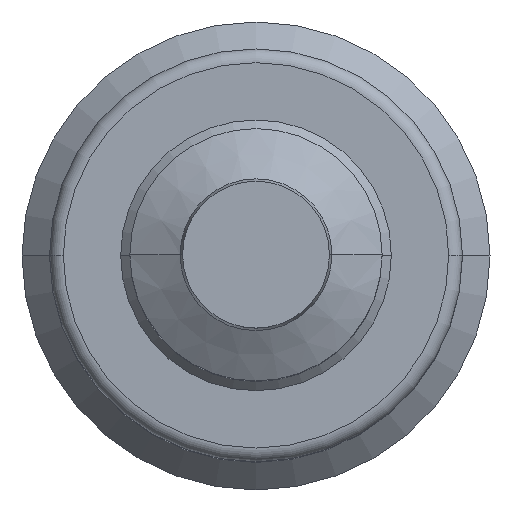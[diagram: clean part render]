
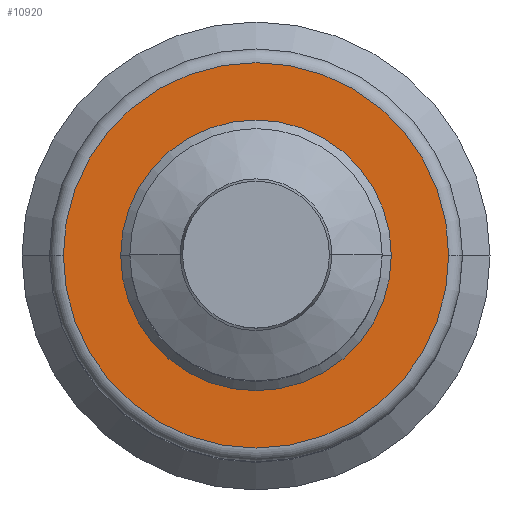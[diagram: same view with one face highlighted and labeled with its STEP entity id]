
A CAD part, top view. The second image highlights one B-rep face of the part: STEP entity #10920.
In plain terms, the highlighted planar face has unit normal (0, 0, 1).
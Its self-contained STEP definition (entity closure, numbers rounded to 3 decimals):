
#874 = ORIENTED_EDGE ( 'NONE', *, *, #10048, .T. ) ;
#1193 = PLANE ( 'NONE',  #11825 ) ;
#1430 = ORIENTED_EDGE ( 'NONE', *, *, #8653, .T. ) ;
#1608 = DIRECTION ( 'NONE',  ( 0., 0., -1. ) ) ;
#2434 = VERTEX_POINT ( 'NONE', #4252 ) ;
#2493 = FACE_BOUND ( 'NONE', #6636, .T. ) ;
#2597 = EDGE_CURVE ( 'NONE', #5908, #4857, #10205, .T. ) ;
#2848 = ORIENTED_EDGE ( 'NONE', *, *, #12290, .F. ) ;
#2950 = CARTESIAN_POINT ( 'NONE',  ( 0., 0., 130. ) ) ;
#3325 = AXIS2_PLACEMENT_3D ( 'NONE', #2950, #9602, #3915 ) ;
#3366 = CARTESIAN_POINT ( 'NONE',  ( 42., 0., 130. ) ) ;
#3587 = VERTEX_POINT ( 'NONE', #5035 ) ;
#3755 = CIRCLE ( 'NONE', #3961, 42. ) ;
#3915 = DIRECTION ( 'NONE',  ( -1., 0., 0. ) ) ;
#3961 = AXIS2_PLACEMENT_3D ( 'NONE', #7322, #1608, #8254 ) ;
#4252 = CARTESIAN_POINT ( 'NONE',  ( -29.5, 0., 130. ) ) ;
#4500 = CARTESIAN_POINT ( 'NONE',  ( 0., 0., 130. ) ) ;
#4690 = EDGE_LOOP ( 'NONE', ( #9661, #2848 ) ) ;
#4857 = VERTEX_POINT ( 'NONE', #3366 ) ;
#5018 = CARTESIAN_POINT ( 'NONE',  ( -29.5, 0., 130. ) ) ;
#5035 = CARTESIAN_POINT ( 'NONE',  ( 29.5, 0., 130. ) ) ;
#5099 = CARTESIAN_POINT ( 'NONE',  ( -42., 0., 130. ) ) ;
#5446 = DIRECTION ( 'NONE',  ( -1., 0., 0. ) ) ;
#5687 = AXIS2_PLACEMENT_3D ( 'NONE', #4500, #11142, #5446 ) ;
#5762 = CIRCLE ( 'NONE', #3325, 29.5 ) ;
#5908 = VERTEX_POINT ( 'NONE', #5099 ) ;
#6171 = DIRECTION ( 'NONE',  ( 1., 0., 0. ) ) ;
#6636 = EDGE_LOOP ( 'NONE', ( #1430, #874 ) ) ;
#7322 = CARTESIAN_POINT ( 'NONE',  ( 0., 0., 130. ) ) ;
#7738 = DIRECTION ( 'NONE',  ( -1., 0., 0. ) ) ;
#8254 = DIRECTION ( 'NONE',  ( -1., 0., 0. ) ) ;
#8653 = EDGE_CURVE ( 'NONE', #2434, #3587, #5762, .T. ) ;
#9602 = DIRECTION ( 'NONE',  ( 0., 0., -1. ) ) ;
#9620 = AXIS2_PLACEMENT_3D ( 'NONE', #10410, #12219, #7738 ) ;
#9661 = ORIENTED_EDGE ( 'NONE', *, *, #2597, .F. ) ;
#10048 = EDGE_CURVE ( 'NONE', #3587, #2434, #10319, .T. ) ;
#10103 = FACE_OUTER_BOUND ( 'NONE', #4690, .T. ) ;
#10205 = CIRCLE ( 'NONE', #9620, 42. ) ;
#10319 = CIRCLE ( 'NONE', #5687, 29.5 ) ;
#10410 = CARTESIAN_POINT ( 'NONE',  ( 0., 0., 130. ) ) ;
#10920 = ADVANCED_FACE ( 'NONE', ( #2493, #10103 ), #1193, .T. ) ;
#11142 = DIRECTION ( 'NONE',  ( 0., 0., -1. ) ) ;
#11825 = AXIS2_PLACEMENT_3D ( 'NONE', #5018, #11871, #6171 ) ;
#11871 = DIRECTION ( 'NONE',  ( 0., 0., 1. ) ) ;
#12219 = DIRECTION ( 'NONE',  ( 0., 0., -1. ) ) ;
#12290 = EDGE_CURVE ( 'NONE', #4857, #5908, #3755, .T. ) ;
